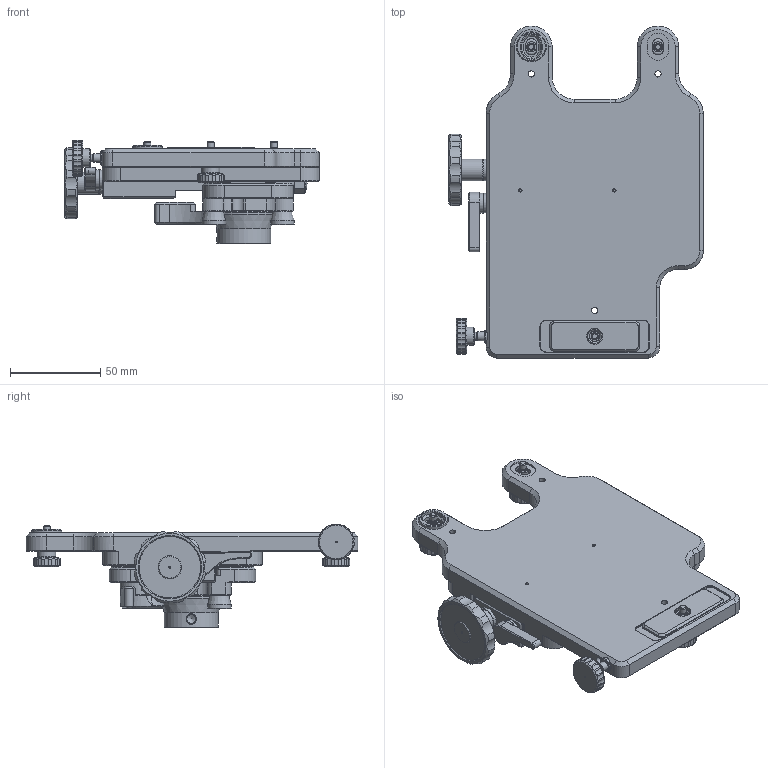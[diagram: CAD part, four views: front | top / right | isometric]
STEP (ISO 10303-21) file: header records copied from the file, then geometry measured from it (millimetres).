
FILE_DESCRIPTION(/* description */ (''),/* implementation_level */ '2;1');
FILE_NAME(/* name */ 'LA_9908_0700_02_A.stp',/* time_stamp */ '2011-08-03T15:29:46+01:00',/* author */ (''),/* organization */ (''),/* preprocessor_version */ 'ST-DEVELOPER v11',/* originating_system */ 'SIEMENS PLM Software NX 7.5',/* authorisation */ '');
FILE_SCHEMA (('CONFIG_CONTROL_DESIGN'));
Length unit declared in the file: millimetre
Products named in the file (1): ad13BDC8cn1x
Bounding box: 140.63 x 183.5 x 57.47 mm (x, y, z)
Volume: 254782.8 mm3; surface area: 125681.1 mm2
Topology: 1 solids, 52 shells, 2021 faces, 5016 edges, 3230 vertices
Faces by surface type: plane 952, cylinder 651, cone 299, torus 109, sphere 6, bspline 2, extrusion 1, revolution 1
Full cylindrical faces by diameter (mm): 1 x3, 1.5 x6, 1.7 x8, 1.815 x6, 2 x11, 2.1 x10, 2.2 x2, 2.5 x3, 2.545 x6, 2.6 x14, 2.85 x1, 3 x24, 3.05 x1, 3.2 x5, 3.4 x11, 3.5 x27, 3.6 x1, 3.838 x3, 4 x4, 4.025 x1, 4.05 x2, 4.1 x2, 4.2 x1, 4.3 x2, 4.5 x4, 4.75 x1, 4.85 x1, 4.9 x2, 4.955 x2, 5 x3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
Entity records: 58854 total; most frequent: CARTESIAN_POINT 13640, DIRECTION 9576, ORIENTED_EDGE 8364, EDGE_CURVE 4182, AXIS2_PLACEMENT_3D 3642, VERTEX_POINT 2985, EDGE_LOOP 2833, VECTOR 2291
